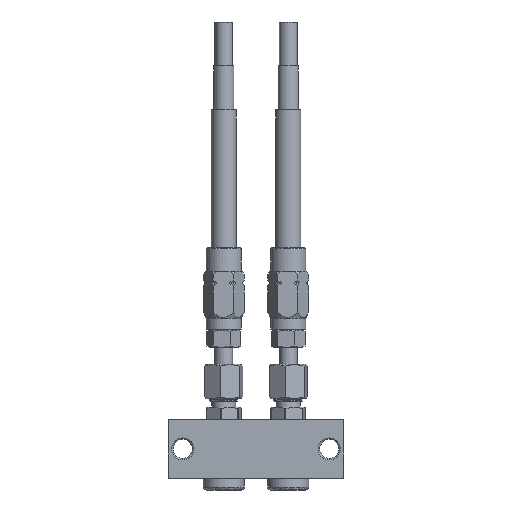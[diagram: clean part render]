
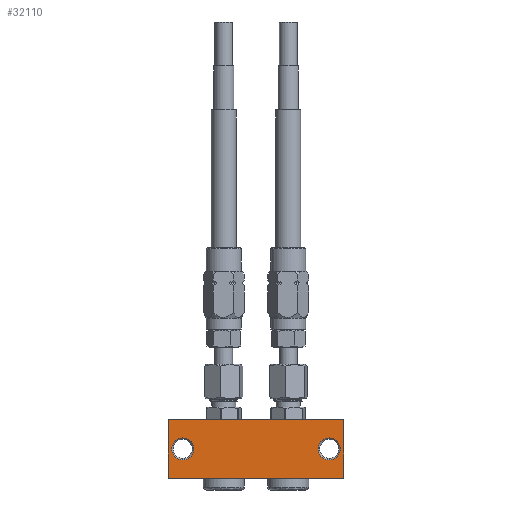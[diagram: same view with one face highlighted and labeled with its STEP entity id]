
A CAD part, front view. The second image highlights one B-rep face of the part: STEP entity #32110.
In plain terms, the highlighted planar face has unit normal (0, -1, 0).
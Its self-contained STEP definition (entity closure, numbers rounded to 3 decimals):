
#454 = ORIENTED_EDGE ( 'NONE', *, *, #29300, .F. ) ;
#1372 = CARTESIAN_POINT ( 'NONE',  ( 30., 0., 10. ) ) ;
#1546 = VECTOR ( 'NONE', #37296, 1000. ) ;
#1648 = CIRCLE ( 'NONE', #14033, 3.75 ) ;
#1758 = LINE ( 'NONE', #25058, #1546 ) ;
#3065 = CARTESIAN_POINT ( 'NONE',  ( 30., 0., -10. ) ) ;
#4464 = VECTOR ( 'NONE', #23458, 1000. ) ;
#4476 = VERTEX_POINT ( 'NONE', #6931 ) ;
#5300 = CARTESIAN_POINT ( 'NONE',  ( -30., 0., 10. ) ) ;
#5575 = CARTESIAN_POINT ( 'NONE',  ( -30., 0., 10. ) ) ;
#6931 = CARTESIAN_POINT ( 'NONE',  ( 30., 0., 10. ) ) ;
#7343 = CARTESIAN_POINT ( 'NONE',  ( 30., 0., 10. ) ) ;
#8930 = EDGE_CURVE ( 'NONE', #33066, #33066, #17701, .T. ) ;
#9017 = AXIS2_PLACEMENT_3D ( 'NONE', #11484, #17695, #35388 ) ;
#10070 = DIRECTION ( 'NONE',  ( 0., 1., 0. ) ) ;
#10478 = LINE ( 'NONE', #1372, #25650 ) ;
#11359 = VECTOR ( 'NONE', #32964, 1000. ) ;
#11484 = CARTESIAN_POINT ( 'NONE',  ( 25., 0., 0. ) ) ;
#11879 = CARTESIAN_POINT ( 'NONE',  ( 25., 0., 3.75 ) ) ;
#13108 = EDGE_LOOP ( 'NONE', ( #26035 ) ) ;
#14033 = AXIS2_PLACEMENT_3D ( 'NONE', #24612, #33345, #30623 ) ;
#16367 = EDGE_CURVE ( 'NONE', #33943, #18217, #1758, .T. ) ;
#16500 = EDGE_CURVE ( 'NONE', #28693, #4476, #10478, .T. ) ;
#16956 = ORIENTED_EDGE ( 'NONE', *, *, #17760, .T. ) ;
#17669 = ORIENTED_EDGE ( 'NONE', *, *, #16367, .T. ) ;
#17695 = DIRECTION ( 'NONE',  ( 0., 1., 0. ) ) ;
#17701 = CIRCLE ( 'NONE', #9017, 3.75 ) ;
#17760 = EDGE_CURVE ( 'NONE', #28693, #33943, #17990, .T. ) ;
#17990 = LINE ( 'NONE', #5575, #11359 ) ;
#18217 = VERTEX_POINT ( 'NONE', #3065 ) ;
#19179 = DIRECTION ( 'NONE',  ( 0., 0., 1. ) ) ;
#22313 = DIRECTION ( 'NONE',  ( 1., 0., 0. ) ) ;
#23458 = DIRECTION ( 'NONE',  ( 0., 0., -1. ) ) ;
#23711 = ORIENTED_EDGE ( 'NONE', *, *, #38393, .T. ) ;
#24612 = CARTESIAN_POINT ( 'NONE',  ( -25., 0., 0. ) ) ;
#25058 = CARTESIAN_POINT ( 'NONE',  ( 30., 0., -10. ) ) ;
#25650 = VECTOR ( 'NONE', #22313, 1000. ) ;
#26035 = ORIENTED_EDGE ( 'NONE', *, *, #8930, .T. ) ;
#26759 = CARTESIAN_POINT ( 'NONE',  ( 30., 0., 10. ) ) ;
#28144 = FACE_BOUND ( 'NONE', #37935, .T. ) ;
#28693 = VERTEX_POINT ( 'NONE', #5300 ) ;
#29300 = EDGE_CURVE ( 'NONE', #4476, #18217, #35511, .T. ) ;
#30623 = DIRECTION ( 'NONE',  ( 0., 0., 1. ) ) ;
#31066 = EDGE_LOOP ( 'NONE', ( #17669, #454, #31944, #16956 ) ) ;
#31177 = AXIS2_PLACEMENT_3D ( 'NONE', #7343, #10070, #19179 ) ;
#31944 = ORIENTED_EDGE ( 'NONE', *, *, #16500, .F. ) ;
#32110 = ADVANCED_FACE ( 'NONE', ( #33588, #28144, #34152 ), #37075, .F. ) ;
#32964 = DIRECTION ( 'NONE',  ( 0., 0., -1. ) ) ;
#33066 = VERTEX_POINT ( 'NONE', #11879 ) ;
#33345 = DIRECTION ( 'NONE',  ( 0., 1., 0. ) ) ;
#33588 = FACE_BOUND ( 'NONE', #13108, .T. ) ;
#33943 = VERTEX_POINT ( 'NONE', #37724 ) ;
#34152 = FACE_OUTER_BOUND ( 'NONE', #31066, .T. ) ;
#35388 = DIRECTION ( 'NONE',  ( 0., 0., 1. ) ) ;
#35511 = LINE ( 'NONE', #26759, #4464 ) ;
#37075 = PLANE ( 'NONE',  #31177 ) ;
#37296 = DIRECTION ( 'NONE',  ( 1., 0., 0. ) ) ;
#37514 = CARTESIAN_POINT ( 'NONE',  ( -25., 0., 3.75 ) ) ;
#37704 = VERTEX_POINT ( 'NONE', #37514 ) ;
#37724 = CARTESIAN_POINT ( 'NONE',  ( -30., 0., -10. ) ) ;
#37935 = EDGE_LOOP ( 'NONE', ( #23711 ) ) ;
#38393 = EDGE_CURVE ( 'NONE', #37704, #37704, #1648, .T. ) ;
